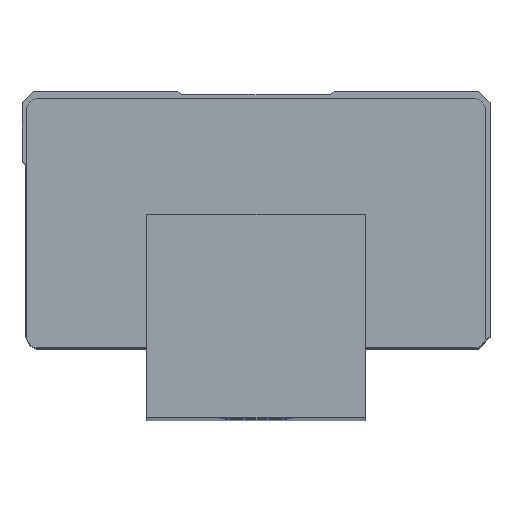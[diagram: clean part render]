
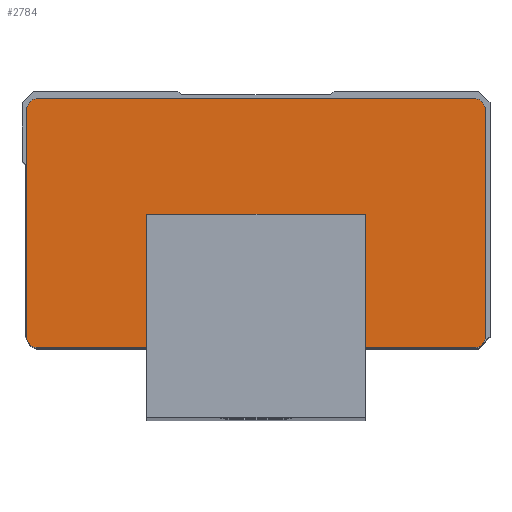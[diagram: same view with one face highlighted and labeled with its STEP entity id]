
A CAD part, top view. The second image highlights one B-rep face of the part: STEP entity #2784.
In plain terms, the highlighted planar face has unit normal (0, 0, 1).
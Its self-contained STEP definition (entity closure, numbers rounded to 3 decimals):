
#2390=CARTESIAN_POINT('',(-13.9,41.05,177.0));
#2391=VERTEX_POINT('',#2390);
#2392=CARTESIAN_POINT('',(41.908,41.05,177.0));
#2393=VERTEX_POINT('',#2392);
#2394=CARTESIAN_POINT('',(-13.9,41.05,177.0));
#2395=DIRECTION('',(1.0,0.0,0.0));
#2396=VECTOR('',#2395,1.0);
#2397=LINE('',#2394,#2396);
#2398=EDGE_CURVE('',#2391,#2393,#2397,.T.);
#2430=CARTESIAN_POINT('',(43.4,39.55,177.0));
#2431=VERTEX_POINT('',#2430);
#2432=CARTESIAN_POINT('',(41.9,39.55,177.0));
#2433=DIRECTION('',(0.0,0.0,-1.0));
#2434=DIRECTION('',(0.006,1.,0.0));
#2435=AXIS2_PLACEMENT_3D('',#2432,#2433,#2434);
#2436=CIRCLE('',#2435,1.5);
#2437=EDGE_CURVE('',#2393,#2431,#2436,.T.);
#2463=CARTESIAN_POINT('',(43.4,10.55,177.0));
#2464=VERTEX_POINT('',#2463);
#2465=CARTESIAN_POINT('',(43.4,39.55,177.0));
#2466=DIRECTION('',(0.0,-1.0,0.0));
#2467=VECTOR('',#2466,1.0);
#2468=LINE('',#2465,#2467);
#2469=EDGE_CURVE('',#2431,#2464,#2468,.T.);
#2494=CARTESIAN_POINT('',(41.9,9.05,177.0));
#2495=VERTEX_POINT('',#2494);
#2496=CARTESIAN_POINT('',(41.9,10.55,177.0));
#2497=DIRECTION('',(0.0,0.0,-1.0));
#2498=DIRECTION('',(1.0,0.0,0.0));
#2499=AXIS2_PLACEMENT_3D('',#2496,#2497,#2498);
#2500=CIRCLE('',#2499,1.5);
#2501=EDGE_CURVE('',#2464,#2495,#2500,.T.);
#2527=CARTESIAN_POINT('',(28.,9.05,177.0));
#2528=VERTEX_POINT('',#2527);
#2529=CARTESIAN_POINT('',(41.9,9.05,177.0));
#2530=DIRECTION('',(-1.0,0.0,0.0));
#2531=VECTOR('',#2530,1.0);
#2532=LINE('',#2529,#2531);
#2533=EDGE_CURVE('',#2495,#2528,#2532,.T.);
#2558=CARTESIAN_POINT('',(28.,26.,177.0));
#2559=VERTEX_POINT('',#2558);
#2560=CARTESIAN_POINT('',(28.,9.05,177.0));
#2561=DIRECTION('',(0.0,1.0,0.0));
#2562=VECTOR('',#2561,1.);
#2563=LINE('',#2560,#2562);
#2564=EDGE_CURVE('',#2528,#2559,#2563,.T.);
#2589=CARTESIAN_POINT('',(0.,26.,177.0));
#2590=VERTEX_POINT('',#2589);
#2591=CARTESIAN_POINT('',(28.,26.,177.0));
#2592=DIRECTION('',(-1.0,0.0,0.0));
#2593=VECTOR('',#2592,1.0);
#2594=LINE('',#2591,#2593);
#2595=EDGE_CURVE('',#2559,#2590,#2594,.T.);
#2620=CARTESIAN_POINT('',(0.,9.05,177.0));
#2621=VERTEX_POINT('',#2620);
#2622=CARTESIAN_POINT('',(0.,26.,177.0));
#2623=DIRECTION('',(0.0,-1.0,0.0));
#2624=VECTOR('',#2623,1.0);
#2625=LINE('',#2622,#2624);
#2626=EDGE_CURVE('',#2590,#2621,#2625,.T.);
#2651=CARTESIAN_POINT('',(-13.9,9.05,177.0));
#2652=VERTEX_POINT('',#2651);
#2653=CARTESIAN_POINT('',(0.,9.05,177.0));
#2654=DIRECTION('',(-1.,0.,0.0));
#2655=VECTOR('',#2654,1.);
#2656=LINE('',#2653,#2655);
#2657=EDGE_CURVE('',#2621,#2652,#2656,.T.);
#2682=CARTESIAN_POINT('',(-15.4,10.55,177.0));
#2683=VERTEX_POINT('',#2682);
#2684=CARTESIAN_POINT('',(-13.9,10.55,177.));
#2685=DIRECTION('',(0.,0.,-1.0));
#2686=DIRECTION('',(0.,-1.0,0.));
#2687=AXIS2_PLACEMENT_3D('',#2684,#2685,#2686);
#2688=CIRCLE('',#2687,1.5);
#2689=EDGE_CURVE('',#2652,#2683,#2688,.T.);
#2715=CARTESIAN_POINT('',(-15.4,39.55,177.0));
#2716=VERTEX_POINT('',#2715);
#2717=CARTESIAN_POINT('',(-15.4,10.55,177.0));
#2718=DIRECTION('',(0.0,1.0,0.0));
#2719=VECTOR('',#2718,1.0);
#2720=LINE('',#2717,#2719);
#2721=EDGE_CURVE('',#2683,#2716,#2720,.T.);
#2746=CARTESIAN_POINT('',(-13.9,39.55,177.));
#2747=DIRECTION('',(0.,0.,-1.0));
#2748=DIRECTION('',(-1.0,0.,0.));
#2749=AXIS2_PLACEMENT_3D('',#2746,#2747,#2748);
#2750=CIRCLE('',#2749,1.5);
#2751=EDGE_CURVE('',#2716,#2391,#2750,.T.);
#2765=CARTESIAN_POINT('',(-18.34,7.45,177.0));
#2766=DIRECTION('',(0.0,0.0,1.0));
#2767=DIRECTION('',(1.0,0.0,0.0));
#2768=AXIS2_PLACEMENT_3D('',#2765,#2766,#2767);
#2769=PLANE('',#2768);
#2770=ORIENTED_EDGE('',*,*,#2398,.F.);
#2771=ORIENTED_EDGE('',*,*,#2751,.F.);
#2772=ORIENTED_EDGE('',*,*,#2721,.F.);
#2773=ORIENTED_EDGE('',*,*,#2689,.F.);
#2774=ORIENTED_EDGE('',*,*,#2657,.F.);
#2775=ORIENTED_EDGE('',*,*,#2626,.F.);
#2776=ORIENTED_EDGE('',*,*,#2595,.F.);
#2777=ORIENTED_EDGE('',*,*,#2564,.F.);
#2778=ORIENTED_EDGE('',*,*,#2533,.F.);
#2779=ORIENTED_EDGE('',*,*,#2501,.F.);
#2780=ORIENTED_EDGE('',*,*,#2469,.F.);
#2781=ORIENTED_EDGE('',*,*,#2437,.F.);
#2782=EDGE_LOOP('',(#2770,#2771,#2772,#2773,#2774,#2775,#2776,#2777,#2778,#2779,#2780,#2781));
#2783=FACE_OUTER_BOUND('',#2782,.T.);
#2784=ADVANCED_FACE('',(#2783),#2769,.T.);
